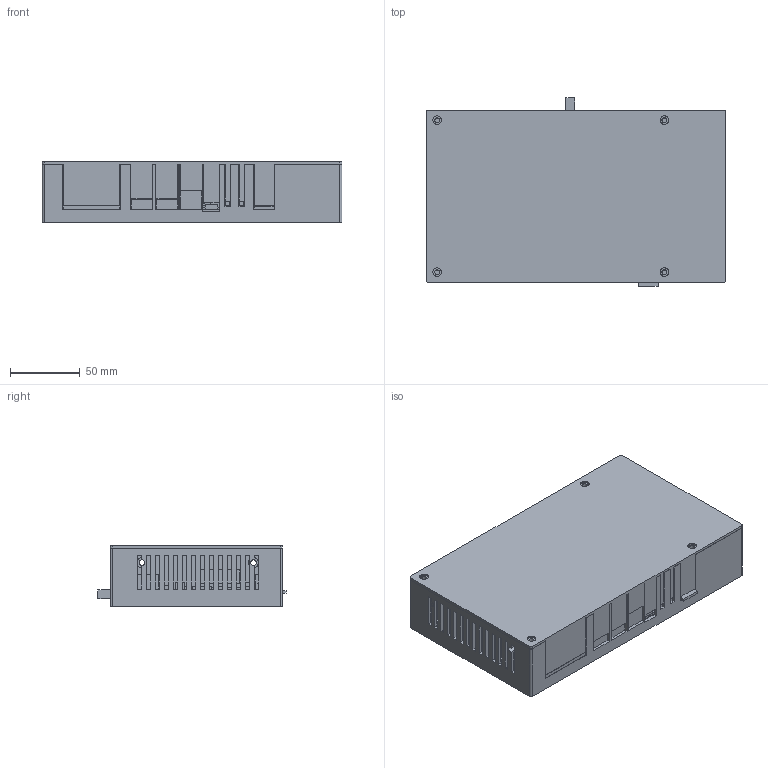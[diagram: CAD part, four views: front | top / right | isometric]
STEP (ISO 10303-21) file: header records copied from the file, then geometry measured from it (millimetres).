
FILE_DESCRIPTION(('Open CASCADE Model'),'2;1');
FILE_NAME('Open CASCADE Shape Model','2026-11-16T23:41:45',('Author'),( 'Open CASCADE'),'Open CASCADE STEP processor 7.7','Open CASCADE 7.7' ,'Unknown');
FILE_SCHEMA(('AUTOMOTIVE_DESIGN { 1 0 10303 214 1 1 1 1 }'));
Length unit declared in the file: millimetre
Products named in the file (55): sorx; enclosure_base; enclosure_base_part; enclosure_lid; enclosure_lid_part; pcb; pcb_part; fan_40x40x10; fan_40x40x10_part; led_window; led_window_part; J9; J9_part; J12; J12_part; J2; J2_part; J11; J11_part; SW1; SW1_part; J8; J8_part; H1; H1_part; H3; H3_part; J10; J10_part; J7; J7_part; BT1; BT1_part; J6; J6_part; SW2; SW2_part; J5; J5_part; J4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
Assembly tree (54 placements, depth 3):
  sorx
    enclosure_base
      enclosure_base_part
    enclosure_lid
      enclosure_lid_part
    pcb
      pcb_part
    fan_40x40x10
      fan_40x40x10_part
    led_window
      led_window_part
    J9
      J9_part
    J12
      J12_part
    J2
      J2_part
    J11
      J11_part
    SW1
      SW1_part
    J8
      J8_part
    H1
      H1_part
    H3
      H3_part
    J10
      J10_part
    J7
      J7_part
    BT1
      BT1_part
    J6
      J6_part
    SW2
      SW2_part
    J5
      J5_part
    J4
      J4_part
    J1
      J1_part
    M1
      M1_part
    HS1
      HS1_part
    J13
      J13_part
    H2
      H2_part
    J3
      J3_part
    H4
      H4_part
Bounding box: 215 x 134.88 x 44 mm (x, y, z)
Volume: 343296.6 mm3; surface area: 277297.3 mm2
Topology: 376 solids, 376 shells, 2547 faces, 5327 edges, 3548 vertices
Faces by surface type: plane 2498, cylinder 49
Full cylindrical faces by diameter (mm): 3.2 x4, 3.4 x4, 3.5 x4, 4 x8, 6.2 x4, 7 x8, 7.2 x4, 38 x1
Entity records: 138268 total; most frequent: CARTESIAN_POINT 22923, DIRECTION 20713, LINE 15189, VECTOR 15189, ORIENTED_EDGE 10654, PCURVE 10654, DEFINITIONAL_REPRESENTATION 10654, EDGE_CURVE 5327
